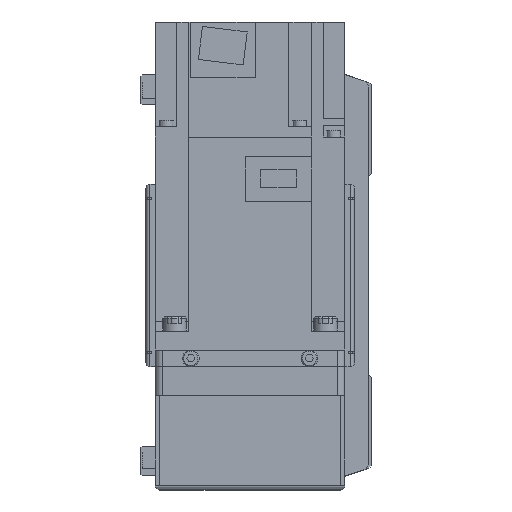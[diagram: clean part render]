
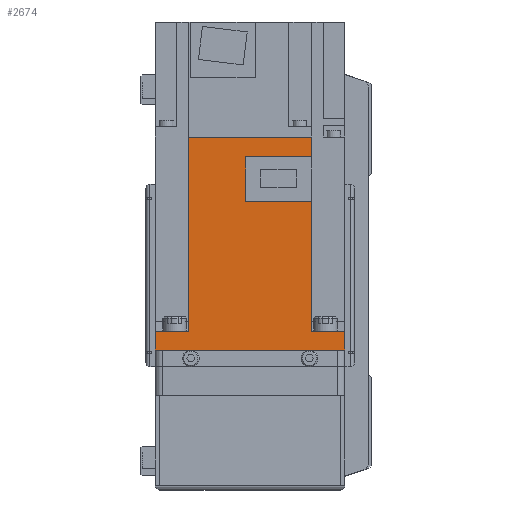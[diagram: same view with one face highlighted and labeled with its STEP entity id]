
A CAD part, left-side view. The second image highlights one B-rep face of the part: STEP entity #2674.
In plain terms, the highlighted planar face has unit normal (-1, 0, 0) as drawn and (1, 0, 0) by its records, which use the part's own axes.
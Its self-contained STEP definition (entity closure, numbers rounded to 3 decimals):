
#2674 = ADVANCED_FACE( '', ( #5783 ), #5784, .F. );
#5783 = FACE_OUTER_BOUND( '', #9339, .T. );
#5784 = PLANE( '', #9340 );
#9339 = EDGE_LOOP( '', ( #16782, #16783, #16784, #16785, #16786, #16787, #16788, #16789, #16790, #16791, #16792, #16793 ) );
#9340 = AXIS2_PLACEMENT_3D( '', #16794, #16795, #16796 );
#16782 = ORIENTED_EDGE( '', *, *, #22203, .F. );
#16783 = ORIENTED_EDGE( '', *, *, #22001, .F. );
#16784 = ORIENTED_EDGE( '', *, *, #21283, .F. );
#16785 = ORIENTED_EDGE( '', *, *, #23016, .T. );
#16786 = ORIENTED_EDGE( '', *, *, #21319, .F. );
#16787 = ORIENTED_EDGE( '', *, *, #22391, .T. );
#16788 = ORIENTED_EDGE( '', *, *, #23017, .T. );
#16789 = ORIENTED_EDGE( '', *, *, #23018, .F. );
#16790 = ORIENTED_EDGE( '', *, *, #23019, .F. );
#16791 = ORIENTED_EDGE( '', *, *, #22002, .F. );
#16792 = ORIENTED_EDGE( '', *, *, #20395, .F. );
#16793 = ORIENTED_EDGE( '', *, *, #23020, .F. );
#16794 = CARTESIAN_POINT( '', ( 40., 89.8, 40. ) );
#16795 = DIRECTION( '', ( -1., 0., 0. ) );
#16796 = DIRECTION( '', ( 0., 0., 1. ) );
#20395 = EDGE_CURVE( '', #24359, #24360, #24361, .T. );
#21283 = EDGE_CURVE( '', #25868, #25864, #25870, .T. );
#21319 = EDGE_CURVE( '', #25922, #25924, #25925, .T. );
#22001 = EDGE_CURVE( '', #25864, #25629, #26995, .T. );
#22002 = EDGE_CURVE( '', #24360, #26996, #26997, .T. );
#22203 = EDGE_CURVE( '', #25629, #27298, #27299, .T. );
#22391 = EDGE_CURVE( '', #25922, #27553, #27555, .T. );
#23016 = EDGE_CURVE( '', #25868, #25924, #28392, .T. );
#23017 = EDGE_CURVE( '', #27553, #28393, #28394, .T. );
#23018 = EDGE_CURVE( '', #28395, #28393, #28396, .T. );
#23019 = EDGE_CURVE( '', #26996, #28395, #28397, .T. );
#23020 = EDGE_CURVE( '', #27298, #24359, #28398, .T. );
#24359 = VERTEX_POINT( '', #30177 );
#24360 = VERTEX_POINT( '', #30178 );
#24361 = LINE( '', #30179, #30180 );
#25629 = VERTEX_POINT( '', #31984 );
#25864 = VERTEX_POINT( '', #32302 );
#25868 = VERTEX_POINT( '', #32308 );
#25870 = LINE( '', #32311, #32312 );
#25922 = VERTEX_POINT( '', #32378 );
#25924 = VERTEX_POINT( '', #32381 );
#25925 = LINE( '', #32382, #32383 );
#26995 = LINE( '', #34052, #34053 );
#26996 = VERTEX_POINT( '', #34054 );
#26997 = LINE( '', #34055, #34056 );
#27298 = VERTEX_POINT( '', #34549 );
#27299 = LINE( '', #34550, #34551 );
#27553 = VERTEX_POINT( '', #34911 );
#27555 = LINE( '', #34914, #34915 );
#28392 = LINE( '', #36196, #36197 );
#28393 = VERTEX_POINT( '', #36198 );
#28394 = LINE( '', #36199, #36200 );
#28395 = VERTEX_POINT( '', #36201 );
#28396 = LINE( '', #36202, #36203 );
#28397 = LINE( '', #36204, #36205 );
#28398 = LINE( '', #36206, #36207 );
#30177 = CARTESIAN_POINT( '', ( 40., 62.8, 1.8 ) );
#30178 = CARTESIAN_POINT( '', ( 40., 62.8, -25.95 ) );
#30179 = CARTESIAN_POINT( '', ( 40., 62.8, 1.8 ) );
#30180 = VECTOR( '', #38019, 1000. );
#31984 = CARTESIAN_POINT( '', ( 40., 81.4, -25.95 ) );
#32302 = CARTESIAN_POINT( '', ( 40., 89.8, -25.95 ) );
#32308 = CARTESIAN_POINT( '', ( 40., 89.8, 25.95 ) );
#32311 = CARTESIAN_POINT( '', ( 40., 89.8, 40. ) );
#32312 = VECTOR( '', #39164, 1000. );
#32378 = CARTESIAN_POINT( '', ( 40., 8., 40. ) );
#32381 = CARTESIAN_POINT( '', ( 40., 8., 25.95 ) );
#32382 = CARTESIAN_POINT( '', ( 40., 8., 40. ) );
#32383 = VECTOR( '', #39210, 1000. );
#34052 = CARTESIAN_POINT( '', ( 40., 158., -25.95 ) );
#34053 = VECTOR( '', #40071, 1000. );
#34054 = CARTESIAN_POINT( '', ( 40., 8., -25.95 ) );
#34055 = CARTESIAN_POINT( '', ( 40., 158., -25.95 ) );
#34056 = VECTOR( '', #40072, 1000. );
#34549 = CARTESIAN_POINT( '', ( 40., 81.4, 1.8 ) );
#34550 = CARTESIAN_POINT( '', ( 40., 81.4, -26. ) );
#34551 = VECTOR( '', #40295, 1000. );
#34911 = CARTESIAN_POINT( '', ( 40., 0., 40. ) );
#34914 = CARTESIAN_POINT( '', ( 40., 89.8, 40. ) );
#34915 = VECTOR( '', #40510, 1000. );
#36196 = CARTESIAN_POINT( '', ( 40., 158., 25.95 ) );
#36197 = VECTOR( '', #41230, 1000. );
#36198 = CARTESIAN_POINT( '', ( 40., 0., -40. ) );
#36199 = CARTESIAN_POINT( '', ( 40., 0., 40. ) );
#36200 = VECTOR( '', #41231, 1000. );
#36201 = CARTESIAN_POINT( '', ( 40., 8., -40. ) );
#36202 = CARTESIAN_POINT( '', ( 40., 89.8, -40. ) );
#36203 = VECTOR( '', #41232, 1000. );
#36204 = CARTESIAN_POINT( '', ( 40., 8., 40. ) );
#36205 = VECTOR( '', #41233, 1000. );
#36206 = CARTESIAN_POINT( '', ( 40., 81.4, 1.8 ) );
#36207 = VECTOR( '', #41234, 1000. );
#38019 = DIRECTION( '', ( 0., 0., -1. ) );
#39164 = DIRECTION( '', ( 0., 0., -1. ) );
#39210 = DIRECTION( '', ( 0., 0., -1. ) );
#40071 = DIRECTION( '', ( 0., -1., 0. ) );
#40072 = DIRECTION( '', ( 0., -1., 0. ) );
#40295 = DIRECTION( '', ( 0., 0., 1. ) );
#40510 = DIRECTION( '', ( 0., -1., 0. ) );
#41230 = DIRECTION( '', ( 0., -1., 0. ) );
#41231 = DIRECTION( '', ( 0., 0., -1. ) );
#41232 = DIRECTION( '', ( 0., -1., 0. ) );
#41233 = DIRECTION( '', ( 0., 0., -1. ) );
#41234 = DIRECTION( '', ( 0., -1., 0. ) );
